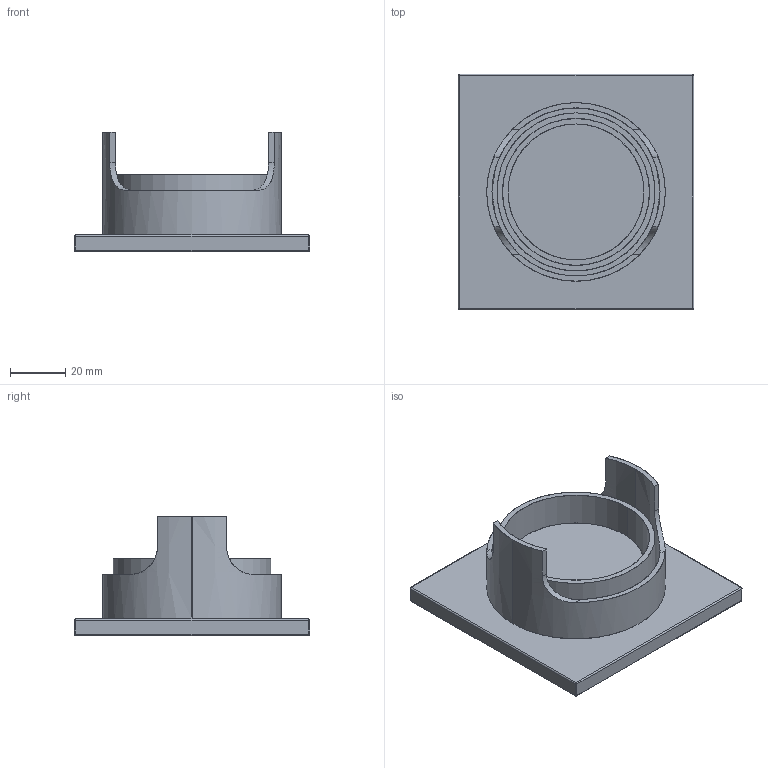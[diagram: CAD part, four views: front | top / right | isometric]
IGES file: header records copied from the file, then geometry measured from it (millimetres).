
Start section: SolidWorks IGES file using analytic representation for surfaces
Global section: file name: Y:\PRODUKT\Modele_3D_WWW\BAHIA\BAHIA PM.IGS; native system: SolidWorks 2023; preprocessor: SolidWorks 2023; author: anna.bielnik; date: 240412.132107; units: millimetre
Bounding box: 85 x 85 x 43 mm (x, y, z)
Surface area: 38523.5 mm2 (no closed solid volume)
Topology: 0 solids, 0 shells, 61 faces, 1216 edges, 1208 vertices
Faces by surface type: revolution 38, bspline 23
